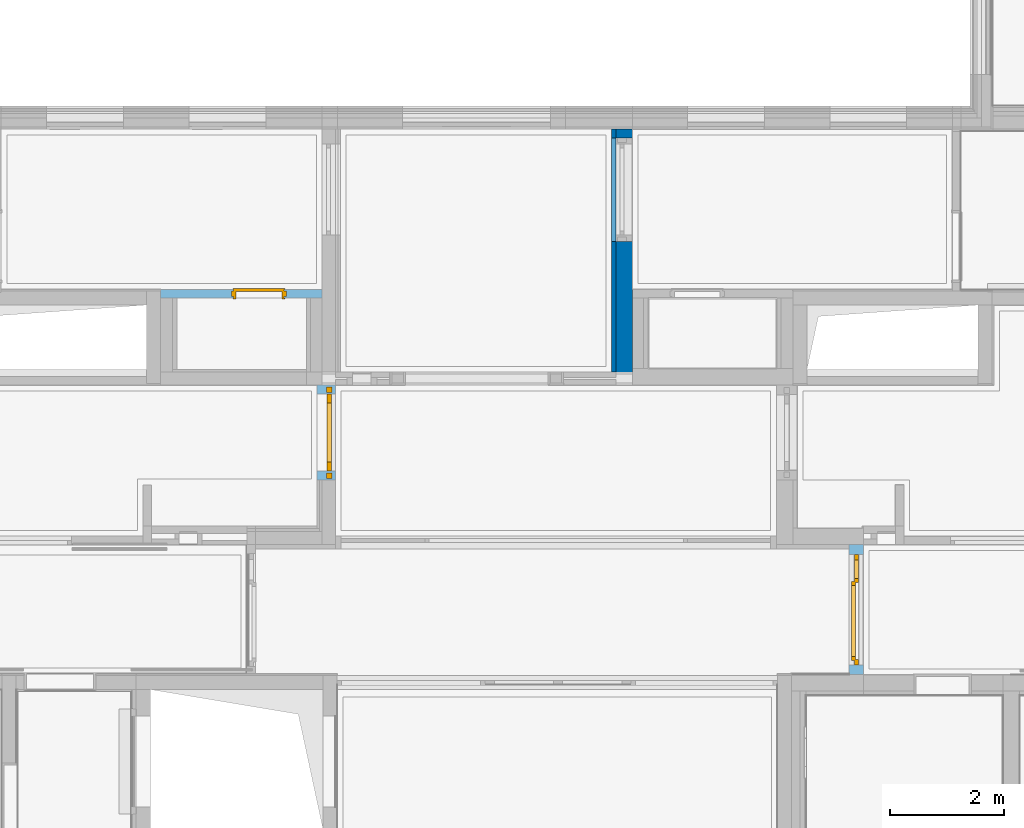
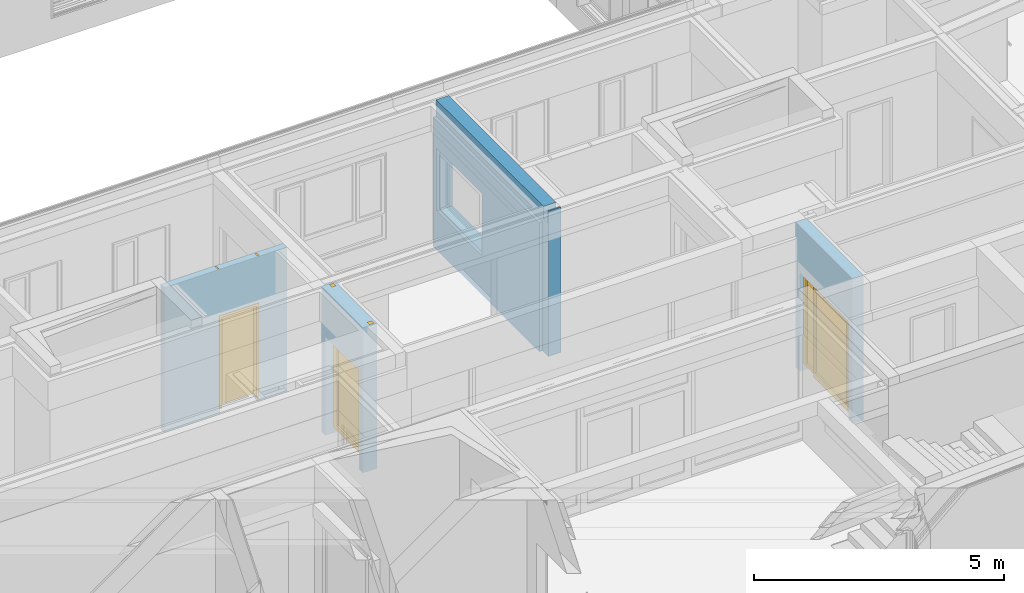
# One storey, part 86 of 222: 3 doors, 2 walls, 3 openings, plus 3 elements that do not belong to this part.
"""IFC4 building model written with IfcOpenShell, lengths in metres."""

from ifc_helpers import new_model, entity, si_unit, converted_unit, derived_unit, frame, frame_2d, origin, origin_with_axes, place, context, subcontext, project, spatial, polyline, rectangle, outline, extrude, closed_shell, open_shell, faceted_brep, surface_model, source, transform, mapped, material, type_object, element, fill, save


model = new_model("IFC4")

# Units and contexts
model_context = context("Model", 3, precision=1e-05, world=origin())
body_context = subcontext(model_context, "Body", "Model", "MODEL_VIEW")
ifc_project = project(units=[si_unit("LENGTHUNIT", "METRE"), si_unit("AREAUNIT", "SQUARE_METRE"), si_unit("VOLUMEUNIT", "CUBIC_METRE"), si_unit("MASSUNIT", "GRAM", prefix="KILO"), converted_unit("PLANEANGLEUNIT", "DEGREE", entity("IfcPlaneAngleMeasure", 0.0174532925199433), si_unit("PLANEANGLEUNIT", "RADIAN"), dimensions=[0, 0, 0, 0, 0, 0, 0]), derived_unit("THERMALTRANSMITTANCEUNIT", [(si_unit("POWERUNIT", "WATT"), 1), (si_unit("THERMODYNAMICTEMPERATUREUNIT", "KELVIN"), -1), (si_unit("LENGTHUNIT", "METRE"), -2)]), derived_unit("VOLUMETRICFLOWRATEUNIT", [(si_unit("LENGTHUNIT", "METRE"), 3), (converted_unit("TIMEUNIT", "hour", entity("IfcTimeMeasure", 3600.0), si_unit("TIMEUNIT", "SECOND"), dimensions=[0, 0, 1, 0, 0, 0, 0]), -1), (si_unit("LENGTHUNIT", "METRE"), -1)])], contexts=[model_context])

# Site, building, storey
site_placement = place(None, origin())
site = spatial("IfcSite", under=ifc_project, at=site_placement, Name="Psychiatrie Neubau Wunstorf", CompositionType="ELEMENT")
building_placement = place(site_placement, origin())
building = spatial("IfcBuilding", under=site, at=building_placement, Name="Neubau H2 Stationsgebäude", CompositionType="ELEMENT")
storey_placement = place(building_placement, frame((0.0, 0.0, 3.6)))
storey = spatial("IfcBuildingStorey", under=building, at=storey_placement, Name="H2 Ebene +1", CompositionType="ELEMENT", Elevation=3.6)

# Wall
ifc_material_1 = material(Name="WI-HW 60")
wall_1_placement = place(storey_placement, frame((55.4425000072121, 5.61749969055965, 0.0)))
element("IfcWall", 1, at=wall_1_placement, inside=storey, material=ifc_material_1, context=body_context, shape_type="Brep", body=[
    faceted_brep([(0.0, 4.34149999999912, 2.475), (0.0, 2.52649999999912, 2.475), (0.29, 2.52649999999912, 2.475), (0.29, 4.34149999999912, 2.475), (0.29, 4.34149999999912, 0.95), (0.0, 4.34149999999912, 0.95), (0.0, 2.52649999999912, 0.95), (0.29, 2.52649999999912, 0.95), (0.0, 0.195999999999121, 3.25), (0.29, 0.195999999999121, 3.25), (0.29, 0.0359999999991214, 3.25), (0.0, 0.0359999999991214, 3.25), (0.29, 0.195999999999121, 3.55), (0.0, 0.195999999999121, 3.55), (0.0, 0.0359999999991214, 3.55), (0.29, 0.0359999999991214, 3.55), (0.29, 0.0, 3.55), (0.0, 0.0, 3.55), (0.0, 4.4965, 3.55), (0.29, 4.4965, 3.55), (0.0, 0.0, 0.0), (0.0, 4.4965, 0.0), (0.29, 4.4965, 0.0), (0.29, 0.0, 0.0)], [[[0, 1, 2, 3]], [[3, 4, 5, 0]], [[1, 6, 7, 2]], [[4, 7, 6, 5]], [[8, 9, 10, 11]], [[12, 9, 8, 13]], [[14, 11, 10, 15]], [[16, 17, 14, 15]], [[18, 19, 12, 13]], [[11, 14, 17, 20, 21, 18, 13, 8], [1, 0, 5, 6]], [[10, 9, 12, 19, 22, 23, 16, 15], [7, 4, 3, 2]], [[23, 20, 17, 16]], [[21, 22, 19, 18]], [[22, 21, 20, 23]]], orient=[[False], [False], [False], [False], [False], [False], [False], [False], [False], [False, False], [False, False], [False], [False], [False]]),
])

# Wall, opening, door
ifc_material_2 = material(Name="WI-LB")
wall_2_placement = place(storey_placement, frame((50.2860000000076, 7.29999969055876, 0.0), z_axis=(0.0, 0.0, 1.0), x_axis=(-1.0, 0.0, 0.0)))
wall_2 = element("IfcWall", 2, at=wall_2_placement, inside=storey, material=ifc_material_2, context=body_context, shape_type="SweptSolid", body=[
    extrude(rectangle(XDim=2.83600000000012, YDim=0.15, at=frame_2d((1.41800000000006, 0.075), x_axis=(1.0, 0.0))), origin_with_axes(), (0.0, 0.0, 1.0), 3.55),
])
opening_1_placement = place(wall_2_placement, frame((1.55350000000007, 0.15, 0.0), z_axis=(0.0, -1.0, 0.0), x_axis=(0.0, 0.0, 1.0)))
opening_1 = element("IfcOpeningElement", 3, at=opening_1_placement, cuts=wall_2, Name="Türöffnung", ObjectType="Opening", context=body_context, shape_type="SweptSolid", body=[
    extrude(outline(polyline([(2.41, 0.885), (2.41, 0.0), (0.0, 0.0), (0.0, 0.885), (2.41, 0.885)])), origin_with_axes(), (0.0, 0.0, 1.0), 0.15),
])
ifc_material_3 = material(Name="TI-1F-UZ-D-N")
door_type = type_object("IfcDoorType", Name="SMT", OperationType="SINGLE_SWING_RIGHT", ParameterTakesPrecedence=False, PredefinedType="DOOR")
shared_shape_1 = source(origin_with_axes(), body_context, "Body", "Brep", [
    faceted_brep([(0.925, 0.025, 0.0), (0.925, 0.125, 0.0), (0.885, 0.125, 0.0), (0.885, 0.025, 0.0), (0.925, 0.125, 3.55), (0.925, 0.025, 3.55), (0.885, 0.025, 3.55), (0.885, 0.125, 3.55)], [[[0, 1, 2, 3]], [[4, 5, 6, 7]], [[1, 0, 5, 4]], [[2, 1, 4, 7]], [[3, 2, 7, 6]], [[0, 3, 6, 5]]], orient=[[False], [False], [False], [False], [False], [False]]),
    faceted_brep([(0.0, 0.025, 0.0), (0.0, 0.125, 0.0), (-0.04, 0.125, 0.0), (-0.04, 0.025, 0.0), (0.0, 0.125, 3.55), (0.0, 0.025, 3.55), (-0.04, 0.025, 3.55), (-0.04, 0.125, 3.55)], [[[0, 1, 2, 3]], [[4, 5, 6, 7]], [[1, 0, 5, 4]], [[2, 1, 4, 7]], [[3, 2, 7, 6]], [[0, 3, 6, 5]]], orient=[[False], [False], [False], [False], [False], [False]]),
    faceted_brep([(0.885, 0.025, 2.41), (0.885, 0.125, 2.41), (0.0, 0.125, 2.41), (0.0, 0.025, 2.41), (0.885, 0.125, 2.45), (0.885, 0.025, 2.45), (0.0, 0.025, 2.45), (0.0, 0.125, 2.45)], [[[0, 1, 2, 3]], [[4, 5, 6, 7]], [[1, 0, 5, 4]], [[2, 1, 4, 7]], [[3, 2, 7, 6]], [[0, 3, 6, 5]]], orient=[[False], [False], [False], [False], [False], [False]]),
])
shared_shape_2 = source(origin_with_axes(), body_context, "Body", "Brep", [
    faceted_brep([(0.885, -0.015, 2.41), (0.885, -0.015, 0.15), (0.845, -0.015, 0.15), (0.845, -0.015, 2.41), (0.885, 0.165, 0.15), (0.885, 0.165, 2.41), (0.845, 0.165, 2.41), (0.845, 0.165, 0.15)], [[[0, 1, 2, 3]], [[4, 5, 6, 7]], [[1, 0, 5, 4]], [[2, 1, 4, 7]], [[3, 2, 7, 6]], [[0, 3, 6, 5]]], orient=[[False], [False], [False], [False], [False], [False]]),
    faceted_brep([(0.885, -0.015, 2.425), (0.9, -0.015, 2.425), (0.9, -0.015, 0.15), (0.885, -0.015, 0.15), (0.885, 0.0, 0.15), (0.9, 0.0, 0.15), (0.9, 0.0, 2.425), (0.885, 0.0, 2.425)], [[[0, 1, 2, 3]], [[4, 5, 6, 7]], [[3, 4, 7, 0]], [[2, 5, 4, 3]], [[1, 6, 5, 2]], [[0, 7, 6, 1]]], orient=[[False], [False], [False], [False], [False], [False]]),
    faceted_brep([(0.885, 0.15, 2.425), (0.9, 0.15, 2.425), (0.9, 0.15, 0.15), (0.885, 0.15, 0.15), (0.885, 0.165, 0.15), (0.9, 0.165, 0.15), (0.9, 0.165, 2.425), (0.885, 0.165, 2.425)], [[[0, 1, 2, 3]], [[4, 5, 6, 7]], [[3, 4, 7, 0]], [[2, 5, 4, 3]], [[1, 6, 5, 2]], [[0, 7, 6, 1]]], orient=[[False], [False], [False], [False], [False], [False]]),
    faceted_brep([(0.04, -0.015, 2.41), (0.04, -0.015, 0.15), (0.0, -0.015, 0.15), (0.0, -0.015, 2.41), (0.04, 0.165, 0.15), (0.04, 0.165, 2.41), (0.0, 0.165, 2.41), (0.0, 0.165, 0.15)], [[[0, 1, 2, 3]], [[4, 5, 6, 7]], [[1, 0, 5, 4]], [[2, 1, 4, 7]], [[3, 2, 7, 6]], [[0, 3, 6, 5]]], orient=[[False], [False], [False], [False], [False], [False]]),
    faceted_brep([(0.0, -0.015, 2.425), (0.0, -0.015, 0.15), (-0.015, -0.015, 0.15), (-0.015, -0.015, 2.425), (0.0, 0.0, 0.15), (0.0, 0.0, 2.425), (-0.015, 0.0, 2.425), (-0.015, 0.0, 0.15)], [[[0, 1, 2, 3]], [[4, 5, 6, 7]], [[1, 0, 5, 4]], [[2, 1, 4, 7]], [[3, 2, 7, 6]], [[0, 3, 6, 5]]], orient=[[False], [False], [False], [False], [False], [False]]),
    faceted_brep([(0.0, 0.15, 2.425), (0.0, 0.15, 0.15), (-0.015, 0.15, 0.15), (-0.015, 0.15, 2.425), (0.0, 0.165, 0.15), (0.0, 0.165, 2.425), (-0.015, 0.165, 2.425), (-0.015, 0.165, 0.15)], [[[0, 1, 2, 3]], [[4, 5, 6, 7]], [[1, 0, 5, 4]], [[2, 1, 4, 7]], [[3, 2, 7, 6]], [[0, 3, 6, 5]]], orient=[[False], [False], [False], [False], [False], [False]]),
    faceted_brep([(0.845, -0.015, 2.41), (0.845, -0.015, 2.37), (0.04, -0.015, 2.37), (0.04, -0.015, 2.41), (0.845, 0.165, 2.37), (0.845, 0.165, 2.41), (0.04, 0.165, 2.41), (0.04, 0.165, 2.37)], [[[0, 1, 2, 3]], [[4, 5, 6, 7]], [[1, 0, 5, 4]], [[2, 1, 4, 7]], [[3, 2, 7, 6]], [[0, 3, 6, 5]]], orient=[[False], [False], [False], [False], [False], [False]]),
    faceted_brep([(0.885, -0.015, 2.425), (0.885, -0.015, 2.41), (0.0, -0.015, 2.41), (0.0, -0.015, 2.425), (0.885, 0.0, 2.41), (0.885, 0.0, 2.425), (0.0, 0.0, 2.425), (0.0, 0.0, 2.41)], [[[0, 1, 2, 3]], [[4, 5, 6, 7]], [[1, 0, 5, 4]], [[2, 1, 4, 7]], [[3, 2, 7, 6]], [[0, 3, 6, 5]]], orient=[[False], [False], [False], [False], [False], [False]]),
    faceted_brep([(0.885, 0.15, 2.425), (0.885, 0.15, 2.41), (0.0, 0.15, 2.41), (0.0, 0.15, 2.425), (0.885, 0.165, 2.41), (0.885, 0.165, 2.425), (0.0, 0.165, 2.425), (0.0, 0.165, 2.41)], [[[0, 1, 2, 3]], [[4, 5, 6, 7]], [[1, 0, 5, 4]], [[2, 1, 4, 7]], [[3, 2, 7, 6]], [[0, 3, 6, 5]]], orient=[[False], [False], [False], [False], [False], [False]]),
    faceted_brep([(0.86, 0.116, 2.385), (0.86, 0.116, 0.15), (0.025, 0.116, 0.15), (0.025, 0.116, 2.385), (0.86, 0.166, 0.15), (0.86, 0.166, 2.385), (0.025, 0.166, 2.385), (0.025, 0.166, 0.15)], [[[0, 1, 2, 3]], [[4, 5, 6, 7]], [[1, 0, 5, 4]], [[2, 1, 4, 7]], [[3, 2, 7, 6]], [[0, 3, 6, 5]]], orient=[[False], [False], [False], [False], [False], [False]]),
])
door_1_placement = place(opening_1_placement, frame((0.0, 0.0, 0.0), z_axis=(1.0, 0.0, 0.0), x_axis=(0.0, 1.0, 0.0)))
door_1 = element("IfcDoor", 4, at=door_1_placement, inside=storey, type_object=door_type, material=ifc_material_3, Name="SMT", OverallHeight=2.41, OverallWidth=0.885, context=body_context, shape_type="MappedRepresentation", body=[
    mapped(shared_shape_1, transform((0.0, 0.0, 0.0), x_axis=(1.0, 0.0, 0.0), y_axis=(0.0, 1.0, 0.0), z_axis=(0.0, 0.0, 1.0), scale=1.0)),
    mapped(shared_shape_2, transform((0.0, 0.0, 0.0), x_axis=(1.0, 0.0, 0.0), y_axis=(0.0, 1.0, 0.0), z_axis=(0.0, 0.0, 1.0), scale=1.0)),
])
fill(opening_1, door_1)

# Wall
ifc_material_4 = material(Name="WI-IW")
wall_3_placement = place(storey_placement, frame((55.3675000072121, 5.84949969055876, 0.0)))
element("IfcWall", 5, at=wall_3_placement, inside=storey, material=ifc_material_4, context=body_context, shape_type="Brep", body=[
    faceted_brep([(0.0, 4.1095, 2.475), (0.0, 2.2945, 2.475), (0.075, 2.2945, 2.475), (0.075, 4.1095, 2.475), (0.075, 4.1095, 0.95), (0.0, 4.1095, 0.95), (0.0, 2.2945, 0.95), (0.075, 2.2945, 0.95), (0.075, 4.26450000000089, 0.0), (0.075, 0.0, 0.0), (0.075, 0.0, 3.15), (0.075, 4.26450000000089, 3.15), (0.0, 0.0, 0.0), (0.0, 0.0, 3.15), (0.0, 4.26450000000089, 0.0), (0.0, 4.26450000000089, 3.15)], [[[0, 1, 2, 3]], [[3, 4, 5, 0]], [[1, 6, 7, 2]], [[4, 7, 6, 5]], [[8, 9, 10, 11], [7, 4, 3, 2]], [[9, 12, 13, 10]], [[12, 14, 15, 13], [1, 0, 5, 6]], [[14, 8, 11, 15]], [[15, 11, 10, 13]], [[8, 14, 12, 9]]], orient=[[False], [False], [False], [False], [False, False], [False], [False, False], [False], [False], [False]]),
])

# Wall, opening, door
ifc_material_5 = material(Name="WI-LW 60")
wall_4_placement = place(storey_placement, frame((50.5180000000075, 3.95250021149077, 0.0), z_axis=(0.0, 0.0, 1.0), x_axis=(0.0, 1.0, 0.0)))
wall_4 = element("IfcWall", 6, at=wall_4_placement, inside=storey, material=ifc_material_5, context=body_context, shape_type="SweptSolid", body=[
    extrude(rectangle(XDim=1.665, YDim=0.322, at=frame_2d((0.8325, 0.161), x_axis=(1.0, 0.0))), origin_with_axes(), (0.0, 0.0, 1.0), 3.55),
])
opening_2_placement = place(wall_4_placement, frame((0.1549999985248, 0.0, 0.0), z_axis=(0.0, 1.0, 0.0), x_axis=(0.0, 0.0, 1.0)))
opening_2 = element("IfcOpeningElement", 7, at=opening_2_placement, cuts=wall_4, Name="Türöffnung", ObjectType="Opening", context=body_context, shape_type="SweptSolid", body=[
    extrude(outline(polyline([(2.41, 1.355), (2.41, 0.0), (0.0, 0.0), (0.0, 1.355), (2.41, 1.355)])), origin_with_axes(), (0.0, 0.0, 1.0), 0.322),
])
ifc_material_6 = material(Name="TI-1F-AG-D")
shared_shape_3 = source(origin_with_axes(), body_context, "Body", "Brep", [
    faceted_brep([(1.4825, -0.00999999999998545, 0.0), (1.4825, 0.0900000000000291, 0.0), (1.3825, 0.0900000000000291, 0.0), (1.3825, -0.00999999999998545, 0.0), (1.4825, 0.0900000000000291, 3.55), (1.4825, -0.00999999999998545, 3.55), (1.3825, -0.00999999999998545, 3.55), (1.3825, 0.0900000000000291, 3.55)], [[[0, 1, 2, 3]], [[4, 5, 6, 7]], [[1, 0, 5, 4]], [[2, 1, 4, 7]], [[3, 2, 7, 6]], [[0, 3, 6, 5]]], orient=[[False], [False], [False], [False], [False], [False]]),
    faceted_brep([(-0.0275000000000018, -0.00999999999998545, 0.0), (-0.0275000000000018, 0.0900000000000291, 0.0), (-0.127500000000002, 0.0900000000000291, 0.0), (-0.127500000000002, -0.00999999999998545, 0.0), (-0.0275000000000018, 0.0900000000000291, 3.55), (-0.0275000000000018, -0.00999999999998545, 3.55), (-0.127500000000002, -0.00999999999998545, 3.55), (-0.127500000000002, 0.0900000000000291, 3.55)], [[[0, 1, 2, 3]], [[4, 5, 6, 7]], [[1, 0, 5, 4]], [[2, 1, 4, 7]], [[3, 2, 7, 6]], [[0, 3, 6, 5]]], orient=[[False], [False], [False], [False], [False], [False]]),
    faceted_brep([(1.3825, -0.00999999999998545, 2.4375), (1.3825, 0.0900000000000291, 2.4375), (-0.0275000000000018, 0.0900000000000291, 2.4375), (-0.0275000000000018, -0.00999999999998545, 2.4375), (1.3825, 0.0900000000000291, 2.5375), (1.3825, -0.00999999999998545, 2.5375), (-0.0275000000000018, -0.00999999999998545, 2.5375), (-0.0275000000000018, 0.0900000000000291, 2.5375)], [[[0, 1, 2, 3]], [[4, 5, 6, 7]], [[1, 0, 5, 4]], [[2, 1, 4, 7]], [[3, 2, 7, 6]], [[0, 3, 6, 5]]], orient=[[False], [False], [False], [False], [False], [False]]),
])
shared_shape_4 = source(origin_with_axes(), body_context, "Body", "SurfaceModel", [
    surface_model("IfcShellBasedSurfaceModel", [(0.0, 0.0, 2.41), (0.0799999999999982, 0.0, 2.41), (0.0799999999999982, 0.0, 0.15), (0.0, 0.0, 0.15), (0.0, 0.0800000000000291, 0.15), (0.0799999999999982, 0.0800000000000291, 0.15), (0.0799999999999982, 0.0800000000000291, 2.41), (0.0, 0.0800000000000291, 2.41)], [closed_shell([[[0, 1, 2, 3]], [[4, 5, 6, 7]], [[3, 4, 7, 0]], [[2, 5, 4, 3]], [[1, 6, 5, 2]], [[0, 7, 6, 1]]], orient=[[False], [False], [False], [False], [False], [False]])]),
    surface_model("IfcShellBasedSurfaceModel", [(1.275, 0.0, 2.41), (1.355, 0.0, 2.41), (1.355, 0.0, 0.15), (1.275, 0.0, 0.15), (1.275, 0.0800000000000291, 0.15), (1.355, 0.0800000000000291, 0.15), (1.355, 0.0800000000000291, 2.41), (1.275, 0.0800000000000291, 2.41)], [closed_shell([[[0, 1, 2, 3]], [[4, 5, 6, 7]], [[3, 4, 7, 0]], [[2, 5, 4, 3]], [[1, 6, 5, 2]], [[0, 7, 6, 1]]], orient=[[False], [False], [False], [False], [False], [False]])]),
    surface_model("IfcShellBasedSurfaceModel", [(0.0799999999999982, 0.0, 2.41), (1.275, 0.0, 2.41), (1.275, 0.0, 2.33), (0.0799999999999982, 0.0, 2.33), (0.0799999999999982, 0.0800000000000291, 2.33), (1.275, 0.0800000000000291, 2.33), (1.275, 0.0800000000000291, 2.41), (0.0799999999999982, 0.0800000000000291, 2.41)], [closed_shell([[[0, 1, 2, 3]], [[4, 5, 6, 7]], [[3, 4, 7, 0]], [[2, 5, 4, 3]], [[1, 6, 5, 2]], [[0, 7, 6, 1]]], orient=[[False], [False], [False], [False], [False], [False]])]),
    surface_model("IfcShellBasedSurfaceModel", [(0.0799999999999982, 0.00100000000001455, 2.33), (0.159999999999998, 0.00100000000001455, 2.33), (0.159999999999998, 0.00100000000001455, 0.15), (0.0799999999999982, 0.00100000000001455, 0.15), (0.0799999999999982, 0.0810000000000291, 0.15), (0.159999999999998, 0.0810000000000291, 0.15), (0.159999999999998, 0.0810000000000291, 2.33), (0.0799999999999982, 0.0810000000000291, 2.33)], [closed_shell([[[0, 1, 2, 3]], [[4, 5, 6, 7]], [[3, 4, 7, 0]], [[2, 5, 4, 3]], [[1, 6, 5, 2]], [[0, 7, 6, 1]]], orient=[[False], [False], [False], [False], [False], [False]])]),
    surface_model("IfcShellBasedSurfaceModel", [(1.195, 0.00100000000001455, 2.33), (1.275, 0.00100000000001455, 2.33), (1.275, 0.00100000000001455, 0.15), (1.195, 0.00100000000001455, 0.15), (1.195, 0.0810000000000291, 0.15), (1.275, 0.0810000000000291, 0.15), (1.275, 0.0810000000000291, 2.33), (1.195, 0.0810000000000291, 2.33)], [closed_shell([[[0, 1, 2, 3]], [[4, 5, 6, 7]], [[3, 4, 7, 0]], [[2, 5, 4, 3]], [[1, 6, 5, 2]], [[0, 7, 6, 1]]], orient=[[False], [False], [False], [False], [False], [False]])]),
    surface_model("IfcShellBasedSurfaceModel", [(0.159999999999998, 0.00100000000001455, 0.27), (1.195, 0.00100000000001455, 0.27), (1.195, 0.00100000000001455, 0.15), (0.159999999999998, 0.00100000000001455, 0.15), (0.159999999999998, 0.0810000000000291, 0.15), (1.195, 0.0810000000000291, 0.15), (1.195, 0.0810000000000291, 0.27), (0.159999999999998, 0.0810000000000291, 0.27)], [closed_shell([[[0, 1, 2, 3]], [[4, 5, 6, 7]], [[3, 4, 7, 0]], [[2, 5, 4, 3]], [[1, 6, 5, 2]], [[0, 7, 6, 1]]], orient=[[False], [False], [False], [False], [False], [False]])]),
    surface_model("IfcShellBasedSurfaceModel", [(0.159999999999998, 0.00100000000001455, 2.33), (1.195, 0.00100000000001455, 2.33), (1.195, 0.00100000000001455, 2.25), (0.159999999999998, 0.00100000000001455, 2.25), (0.159999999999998, 0.0810000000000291, 2.25), (1.195, 0.0810000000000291, 2.25), (1.195, 0.0810000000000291, 2.33), (0.159999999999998, 0.0810000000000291, 2.33)], [closed_shell([[[0, 1, 2, 3]], [[4, 5, 6, 7]], [[3, 4, 7, 0]], [[2, 5, 4, 3]], [[1, 6, 5, 2]], [[0, 7, 6, 1]]], orient=[[False], [False], [False], [False], [False], [False]])]),
    surface_model("IfcShellBasedSurfaceModel", [(0.159999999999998, 0.0410000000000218, 0.27), (0.159999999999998, 0.0410000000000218, 2.25), (1.195, 0.0410000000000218, 2.25), (1.195, 0.0410000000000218, 0.27)], [open_shell([[[0, 1, 2, 3]]], orient=[[False]])]),
])
door_2_placement = place(opening_2_placement, frame((0.0, 0.0, 0.065), z_axis=(1.0, 0.0, 0.0), x_axis=(0.0, 1.0, 0.0)))
door_2 = element("IfcDoor", 8, at=door_2_placement, inside=storey, material=ifc_material_6, Name="SMT", OperationType="USERDEFINED", OverallHeight=2.41, OverallWidth=1.355, PredefinedType="DOOR", context=body_context, shape_type="MappedRepresentation", body=[
    mapped(shared_shape_3, transform((0.0, 0.0, 0.0), x_axis=(1.0, 0.0, 0.0), y_axis=(0.0, 1.0, 0.0), z_axis=(0.0, 0.0, 1.0), scale=1.0)),
    mapped(shared_shape_4, transform((0.0, 0.0, 0.0), x_axis=(1.0, 0.0, 0.0), y_axis=(0.0, 1.0, 0.0), z_axis=(0.0, 0.0, 1.0), scale=1.0)),
])
fill(opening_2, door_2)

ifc_material_7 = material(Name="WI-LB")
wall_5_placement = place(storey_placement, frame((59.5393138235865, 2.81749969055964, 0.0), z_axis=(0.0, 0.0, 1.0), x_axis=(0.0, -1.0, 0.0)))
wall_5 = element("IfcWall", 9, at=wall_5_placement, inside=storey, material=ifc_material_7, context=body_context, shape_type="SweptSolid", body=[
    extrude(rectangle(XDim=2.28150477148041, YDim=0.25, at=frame_2d((1.14075238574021, 0.125), x_axis=(1.0, 0.0))), origin_with_axes(), (0.0, 0.0, 1.0), 3.55),
])
opening_3_placement = place(wall_5_placement, frame((2.11150477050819, 0.25, 0.0), z_axis=(0.0, -1.0, 0.0), x_axis=(0.0, 0.0, 1.0)))
opening_3 = element("IfcOpeningElement", 10, at=opening_3_placement, cuts=wall_5, Name="Türöffnung", ObjectType="Opening", context=body_context, shape_type="SweptSolid", body=[
    extrude(outline(polyline([(2.41, 1.9425), (2.41, 0.0), (0.0, 0.0), (0.0, 1.9425), (2.41, 1.9425)])), origin_with_axes(), (0.0, 0.0, 1.0), 0.25),
])
ifc_material_8 = material(Name="TI-1F-SG-D-M")
shared_shape_5 = source(origin_with_axes(), body_context, "Body", "Brep", [
    faceted_brep([(2.05, -0.0449999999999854, 0.0), (2.05, 0.115000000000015, 0.0), (1.97, 0.115000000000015, 0.0), (1.97, -0.0449999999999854, 0.0), (2.05, 0.115000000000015, 3.55), (2.05, -0.0449999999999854, 3.55), (1.97, -0.0449999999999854, 3.55), (1.97, 0.115000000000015, 3.55)], [[[0, 1, 2, 3]], [[4, 5, 6, 7]], [[1, 0, 5, 4]], [[2, 1, 4, 7]], [[3, 2, 7, 6]], [[0, 3, 6, 5]]], orient=[[False], [False], [False], [False], [False], [False]]),
    faceted_brep([(-0.0275000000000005, -0.0449999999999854, 0.0), (-0.0275000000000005, 0.115000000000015, 0.0), (-0.1075, 0.115000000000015, 0.0), (-0.1075, -0.0449999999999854, 0.0), (-0.0275000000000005, 0.115000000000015, 3.55), (-0.0275000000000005, -0.0449999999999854, 3.55), (-0.1075, -0.0449999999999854, 3.55), (-0.1075, 0.115000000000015, 3.55)], [[[0, 1, 2, 3]], [[4, 5, 6, 7]], [[1, 0, 5, 4]], [[2, 1, 4, 7]], [[3, 2, 7, 6]], [[0, 3, 6, 5]]], orient=[[False], [False], [False], [False], [False], [False]]),
    faceted_brep([(1.97, -0.0449999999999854, 2.4375), (1.97, 0.115000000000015, 2.4375), (-0.0275000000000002, 0.115000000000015, 2.4375), (-0.0275000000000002, -0.0449999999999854, 2.4375), (1.97, 0.115000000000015, 2.5175), (1.97, -0.0449999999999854, 2.5175), (-0.0275000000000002, -0.0449999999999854, 2.5175), (-0.0275000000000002, 0.115000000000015, 2.5175)], [[[0, 1, 2, 3]], [[4, 5, 6, 7]], [[1, 0, 5, 4]], [[2, 1, 4, 7]], [[3, 2, 7, 6]], [[0, 3, 6, 5]]], orient=[[False], [False], [False], [False], [False], [False]]),
])
shared_shape_6 = source(origin_with_axes(), body_context, "Body", "SurfaceModel", [
    surface_model("IfcShellBasedSurfaceModel", [(0.0, 0.0, 2.41), (0.0999999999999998, 0.0, 2.41), (0.0999999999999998, 0.0, 0.15), (0.0, 0.0, 0.15), (0.0, 0.0700000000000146, 0.15), (0.0999999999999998, 0.0700000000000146, 0.15), (0.0999999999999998, 0.0700000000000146, 2.41), (0.0, 0.0700000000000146, 2.41)], [closed_shell([[[0, 1, 2, 3]], [[4, 5, 6, 7]], [[3, 4, 7, 0]], [[2, 5, 4, 3]], [[1, 6, 5, 2]], [[0, 7, 6, 1]]], orient=[[False], [False], [False], [False], [False], [False]])]),
    surface_model("IfcShellBasedSurfaceModel", [(1.8425, 0.0, 2.41), (1.9425, 0.0, 2.41), (1.9425, 0.0, 0.15), (1.8425, 0.0, 0.15), (1.8425, 0.0700000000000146, 0.15), (1.9425, 0.0700000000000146, 0.15), (1.9425, 0.0700000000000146, 2.41), (1.8425, 0.0700000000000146, 2.41)], [closed_shell([[[0, 1, 2, 3]], [[4, 5, 6, 7]], [[3, 4, 7, 0]], [[2, 5, 4, 3]], [[1, 6, 5, 2]], [[0, 7, 6, 1]]], orient=[[False], [False], [False], [False], [False], [False]])]),
    surface_model("IfcShellBasedSurfaceModel", [(0.0999999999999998, 0.0, 2.41), (1.8425, 0.0, 2.41), (1.8425, 0.0, 2.31), (0.0999999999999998, 0.0, 2.31), (0.0999999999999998, 0.0700000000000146, 2.31), (1.8425, 0.0700000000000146, 2.31), (1.8425, 0.0700000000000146, 2.41), (0.0999999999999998, 0.0700000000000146, 2.41)], [closed_shell([[[0, 1, 2, 3]], [[4, 5, 6, 7]], [[3, 4, 7, 0]], [[2, 5, 4, 3]], [[1, 6, 5, 2]], [[0, 7, 6, 1]]], orient=[[False], [False], [False], [False], [False], [False]])]),
    surface_model("IfcShellBasedSurfaceModel", [(1.45, 0.0, 2.31), (1.52, 0.0, 2.31), (1.52, 0.0, 0.15), (1.45, 0.0, 0.15), (1.45, 0.0700000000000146, 0.15), (1.52, 0.0700000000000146, 0.15), (1.52, 0.0700000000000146, 2.31), (1.45, 0.0700000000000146, 2.31)], [closed_shell([[[0, 1, 2, 3]], [[4, 5, 6, 7]], [[3, 4, 7, 0]], [[2, 5, 4, 3]], [[1, 6, 5, 2]], [[0, 7, 6, 1]]], orient=[[False], [False], [False], [False], [False], [False]])]),
    surface_model("IfcShellBasedSurfaceModel", [(0.0799999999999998, 0.0500000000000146, 2.33), (0.15, 0.0500000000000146, 2.33), (0.15, 0.0500000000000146, 0.13), (0.0799999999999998, 0.0500000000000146, 0.13), (0.0799999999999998, 0.120000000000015, 0.13), (0.15, 0.120000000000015, 0.13), (0.15, 0.120000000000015, 2.33), (0.0799999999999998, 0.120000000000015, 2.33)], [closed_shell([[[0, 1, 2, 3]], [[4, 5, 6, 7]], [[3, 4, 7, 0]], [[2, 5, 4, 3]], [[1, 6, 5, 2]], [[0, 7, 6, 1]]], orient=[[False], [False], [False], [False], [False], [False]])]),
    surface_model("IfcShellBasedSurfaceModel", [(1.4, 0.0500000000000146, 2.33), (1.47, 0.0500000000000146, 2.33), (1.47, 0.0500000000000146, 0.13), (1.4, 0.0500000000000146, 0.13), (1.4, 0.120000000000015, 0.13), (1.47, 0.120000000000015, 0.13), (1.47, 0.120000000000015, 2.33), (1.4, 0.120000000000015, 2.33)], [closed_shell([[[0, 1, 2, 3]], [[4, 5, 6, 7]], [[3, 4, 7, 0]], [[2, 5, 4, 3]], [[1, 6, 5, 2]], [[0, 7, 6, 1]]], orient=[[False], [False], [False], [False], [False], [False]])]),
    surface_model("IfcShellBasedSurfaceModel", [(0.15, 0.0500000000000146, 0.28), (1.4, 0.0500000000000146, 0.28), (1.4, 0.0500000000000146, 0.13), (0.15, 0.0500000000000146, 0.13), (0.15, 0.120000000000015, 0.13), (1.4, 0.120000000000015, 0.13), (1.4, 0.120000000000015, 0.28), (0.15, 0.120000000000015, 0.28)], [closed_shell([[[0, 1, 2, 3]], [[4, 5, 6, 7]], [[3, 4, 7, 0]], [[2, 5, 4, 3]], [[1, 6, 5, 2]], [[0, 7, 6, 1]]], orient=[[False], [False], [False], [False], [False], [False]])]),
    surface_model("IfcShellBasedSurfaceModel", [(0.15, 0.0500000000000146, 2.33), (1.4, 0.0500000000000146, 2.33), (1.4, 0.0500000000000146, 2.26), (0.15, 0.0500000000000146, 2.26), (0.15, 0.120000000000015, 2.26), (1.4, 0.120000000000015, 2.26), (1.4, 0.120000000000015, 2.33), (0.15, 0.120000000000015, 2.33)], [closed_shell([[[0, 1, 2, 3]], [[4, 5, 6, 7]], [[3, 4, 7, 0]], [[2, 5, 4, 3]], [[1, 6, 5, 2]], [[0, 7, 6, 1]]], orient=[[False], [False], [False], [False], [False], [False]])]),
    surface_model("IfcShellBasedSurfaceModel", [(1.52, 0.0, 0.22), (1.8425, 0.0, 0.22), (1.8425, 0.0, 0.15), (1.52, 0.0, 0.15), (1.52, 0.0700000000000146, 0.15), (1.8425, 0.0700000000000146, 0.15), (1.8425, 0.0700000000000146, 0.22), (1.52, 0.0700000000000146, 0.22)], [closed_shell([[[0, 1, 2, 3]], [[4, 5, 6, 7]], [[3, 4, 7, 0]], [[2, 5, 4, 3]], [[1, 6, 5, 2]], [[0, 7, 6, 1]]], orient=[[False], [False], [False], [False], [False], [False]])]),
    surface_model("IfcShellBasedSurfaceModel", [(0.15, 0.0850000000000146, 0.28), (0.15, 0.0850000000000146, 2.26), (1.4, 0.0850000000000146, 2.26), (1.4, 0.0850000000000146, 0.28)], [open_shell([[[0, 1, 2, 3]]], orient=[[False]])]),
    surface_model("IfcShellBasedSurfaceModel", [(1.52, 0.0350000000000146, 0.22), (1.52, 0.0350000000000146, 2.31), (1.8425, 0.0350000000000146, 2.31), (1.8425, 0.0350000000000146, 0.22)], [open_shell([[[0, 1, 2, 3]]], orient=[[False]])]),
])
door_3_placement = place(opening_3_placement, frame((0.0, 0.0, 0.09), z_axis=(1.0, 0.0, 0.0), x_axis=(0.0, 1.0, 0.0)))
door_3 = element("IfcDoor", 11, at=door_3_placement, inside=storey, material=ifc_material_8, Name="SMT", OperationType="USERDEFINED", OverallHeight=2.41, OverallWidth=1.9425, PredefinedType="DOOR", context=body_context, shape_type="MappedRepresentation", body=[
    mapped(shared_shape_5, transform((0.0, 0.0, 0.0), x_axis=(1.0, 0.0, 0.0), y_axis=(0.0, 1.0, 0.0), z_axis=(0.0, 0.0, 1.0), scale=1.0)),
    mapped(shared_shape_6, transform((0.0, 0.0, 0.0), x_axis=(1.0, 0.0, 0.0), y_axis=(0.0, 1.0, 0.0), z_axis=(0.0, 0.0, 1.0), scale=1.0)),
])
fill(opening_3, door_3)

save(model, "model.ifc")
